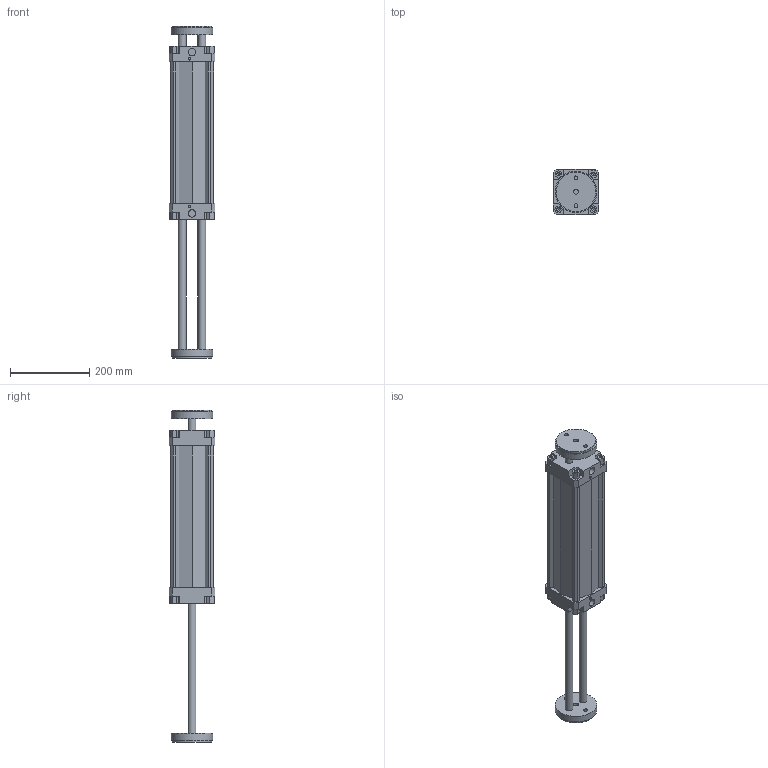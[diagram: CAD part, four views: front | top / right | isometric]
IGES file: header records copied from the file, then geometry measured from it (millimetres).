
Global section: file name: 132#_100_0300_06; native system: Autodesk Inventor 2014; preprocessor: unknown; author: A. Manieri; date: 20161006.163743; units: millimetre
Bounding box: 115 x 115 x 840 mm (x, y, z)
Volume: 3090034 mm3; surface area: 555865.8 mm2
Topology: 2 solids, 2 shells, 190 faces, 518 edges, 354 vertices
Faces by surface type: bspline 190
